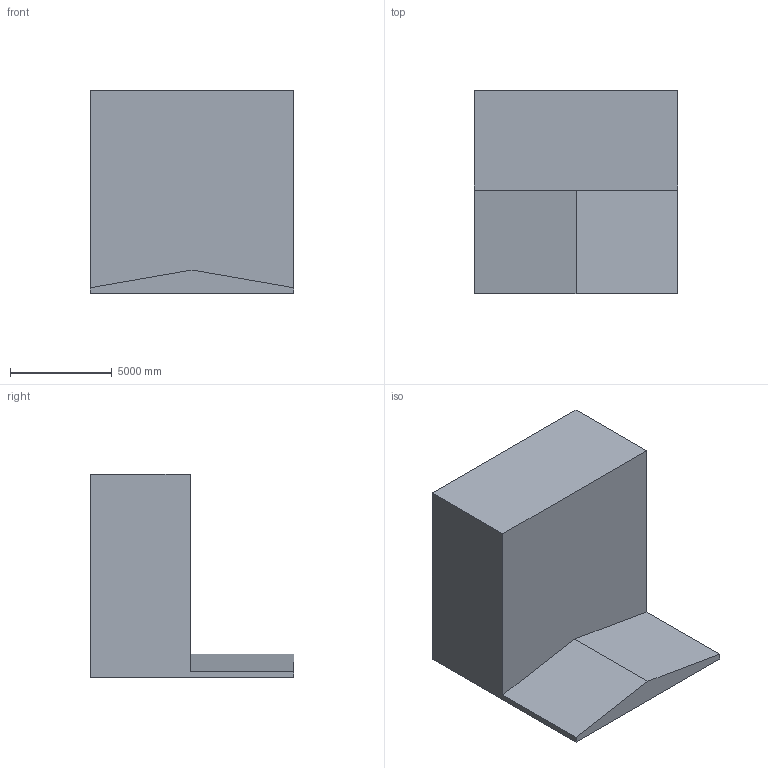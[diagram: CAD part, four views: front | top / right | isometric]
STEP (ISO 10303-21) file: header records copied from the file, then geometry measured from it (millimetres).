
FILE_DESCRIPTION (( 'STEP AP203' ), '1' );
FILE_NAME ('2.STEP', '2022-09-02T13:38:11', ( 'user' ), ( '' ), 'SwSTEP 2.0', 'SolidWorks 2021', '' );
FILE_SCHEMA (( 'CONFIG_CONTROL_DESIGN' ));
Length unit declared in the file: centimetre
Products named in the file (1): 2
Bounding box: 10000 x 10000 x 10000 mm (x, y, z)
Volume: 516677283391 mm3; surface area: 536796007.5 mm2
Topology: 1 solids, 1 shells, 13 faces, 30 edges, 20 vertices
Faces by surface type: plane 13
Entity records: 441 total; most frequent: CARTESIAN_POINT 64, ORIENTED_EDGE 60, DIRECTION 58, EDGE_CURVE 30, LINE 30, VECTOR 30, VERTEX_POINT 20, AXIS2_PLACEMENT_3D 14
